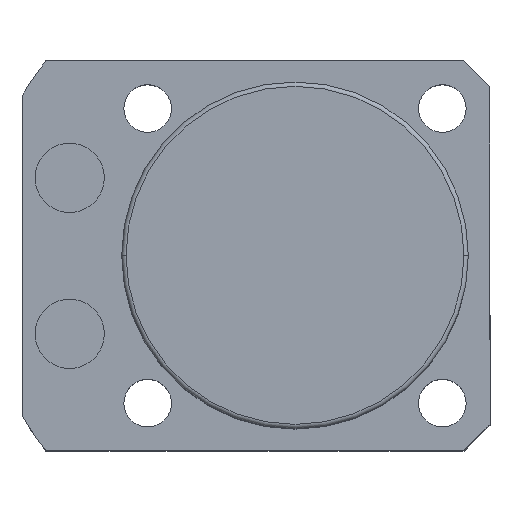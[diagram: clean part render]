
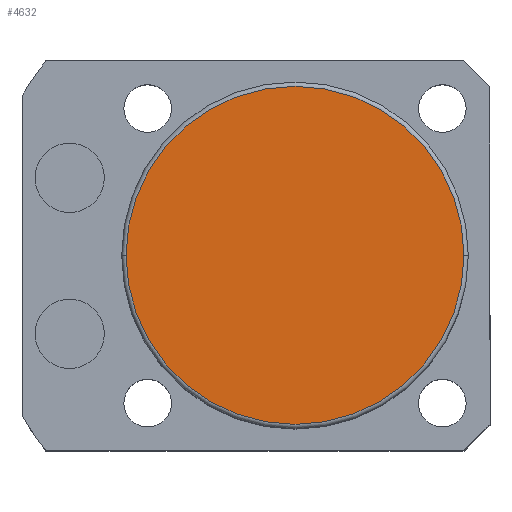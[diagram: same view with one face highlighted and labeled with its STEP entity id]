
A CAD part, top view. The second image highlights one B-rep face of the part: STEP entity #4632.
In plain terms, the highlighted planar face has unit normal (0, 0, 1).
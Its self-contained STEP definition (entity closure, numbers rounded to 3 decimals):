
#116 = ORIENTED_EDGE ( 'NONE', *, *, #1835, .T. ) ;
#555 = AXIS2_PLACEMENT_3D ( 'NONE', #4988, #927, #3325 ) ;
#576 = EDGE_CURVE ( 'NONE', #4212, #2845, #2768, .T. ) ;
#927 = DIRECTION ( 'NONE',  ( 0., 0., 1. ) ) ;
#1119 = DIRECTION ( 'NONE',  ( 1., 0., 0. ) ) ;
#1415 = CARTESIAN_POINT ( 'NONE',  ( 19.5, 0., 43.5 ) ) ;
#1430 = DIRECTION ( 'NONE',  ( 1., 0., 0. ) ) ;
#1477 = FACE_OUTER_BOUND ( 'NONE', #4434, .T. ) ;
#1698 = CARTESIAN_POINT ( 'NONE',  ( -19.5, 0., 43.5 ) ) ;
#1835 = EDGE_CURVE ( 'NONE', #2845, #4212, #5226, .T. ) ;
#2254 = CARTESIAN_POINT ( 'NONE',  ( 0., 0., 43.5 ) ) ;
#2768 = CIRCLE ( 'NONE', #555, 19.5 ) ;
#2845 = VERTEX_POINT ( 'NONE', #1415 ) ;
#3032 = DIRECTION ( 'NONE',  ( 0., 0., 1. ) ) ;
#3325 = DIRECTION ( 'NONE',  ( 1., 0., 0. ) ) ;
#3515 = AXIS2_PLACEMENT_3D ( 'NONE', #3976, #4809, #1119 ) ;
#3559 = AXIS2_PLACEMENT_3D ( 'NONE', #2254, #3032, #1430 ) ;
#3976 = CARTESIAN_POINT ( 'NONE',  ( 0., 0., 43.5 ) ) ;
#4212 = VERTEX_POINT ( 'NONE', #1698 ) ;
#4434 = EDGE_LOOP ( 'NONE', ( #116, #4607 ) ) ;
#4607 = ORIENTED_EDGE ( 'NONE', *, *, #576, .T. ) ;
#4632 = ADVANCED_FACE ( 'NONE', ( #1477 ), #5186, .T. ) ;
#4809 = DIRECTION ( 'NONE',  ( 0., 0., 1. ) ) ;
#4988 = CARTESIAN_POINT ( 'NONE',  ( 0., 0., 43.5 ) ) ;
#5186 = PLANE ( 'NONE',  #3515 ) ;
#5226 = CIRCLE ( 'NONE', #3559, 19.5 ) ;
